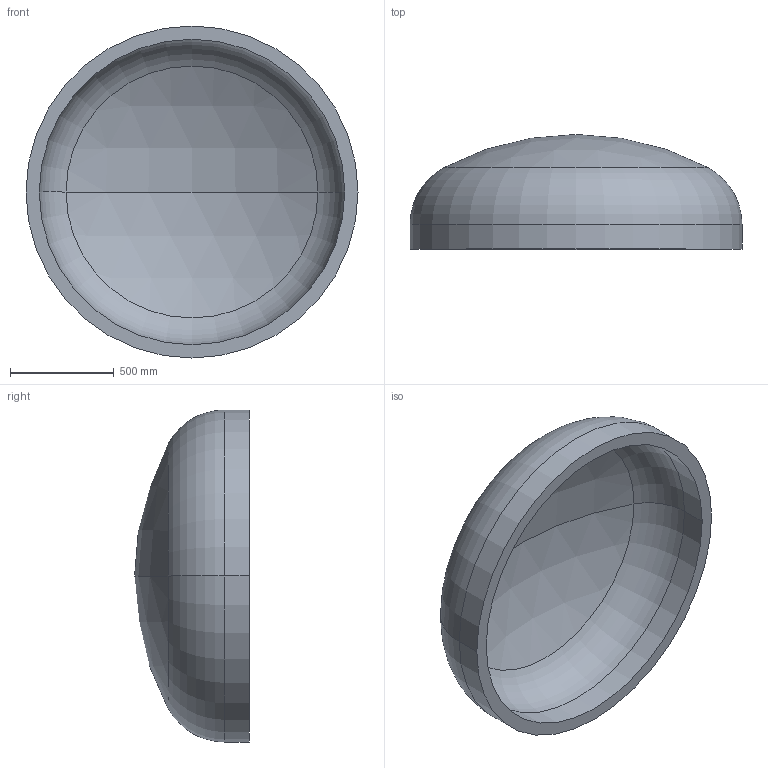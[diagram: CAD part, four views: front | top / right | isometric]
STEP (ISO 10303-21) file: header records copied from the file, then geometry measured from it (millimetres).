
FILE_DESCRIPTION (( 'STEP AP203' ), '1' );
FILE_NAME ('DIN 28013 Korbbogenform_-_Boden DIN 28013 - 1600 x 120 - I - s=64.step', '2016-07-01T11:22:29', ( '' ), ( '' ), 'SwSTEP 2.0', 'SolidWorks 2013', '' );
FILE_SCHEMA (( 'CONFIG_CONTROL_DESIGN' ));
Length unit declared in the file: millimetre
Products named in the file (1): DIN 28013 Korbbogenform_-_Boden DIN 28013 - 1600 x 120 - I - s=64
Bounding box: 1600 x 552.88 x 1600 mm (x, y, z)
Volume: 206082739.2 mm3; surface area: 6757493.6 mm2
Topology: 1 solids, 1 shells, 13 faces, 24 edges, 14 vertices
Faces by surface type: torus 4, cylinder 4, sphere 4, plane 1
Entity records: 407 total; most frequent: DIRECTION 72, CARTESIAN_POINT 52, ORIENTED_EDGE 48, AXIS2_PLACEMENT_3D 34, EDGE_CURVE 24, CIRCLE 20, VERTEX_POINT 14, EDGE_LOOP 14
